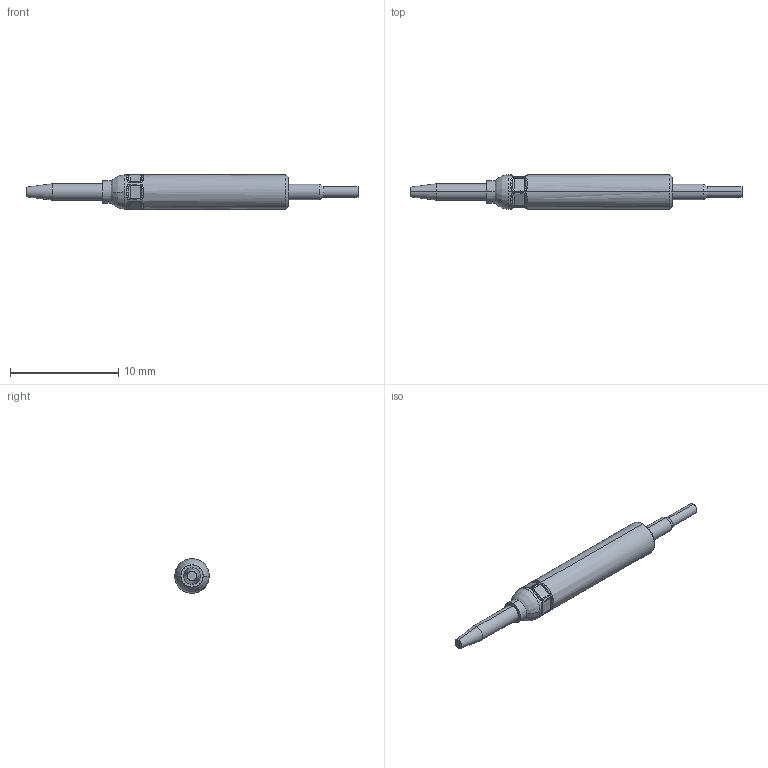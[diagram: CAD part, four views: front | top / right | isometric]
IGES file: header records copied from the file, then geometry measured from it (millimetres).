
Start section: SolidWorks IGES file using analytic representation for surfaces
Global section: file name: Z:\probe solid model mockups\Solidworks models\IGES Files\SSP-5C IGES files\SSP-5C.IGS; native system: SolidWorks 2006 by SolidWorks Corporation; preprocessor: SolidWorks 2006 by SolidWorks Corporation; author: tsakatani; date: 080103.133122; units: inch
Bounding box: 30.73 x 3.17 x 3.17 mm (x, y, z)
Surface area: 233 mm2 (no closed solid volume)
Topology: 0 solids, 0 shells, 106 faces, 754 edges, 754 vertices
Faces by surface type: bspline 64, revolution 42
